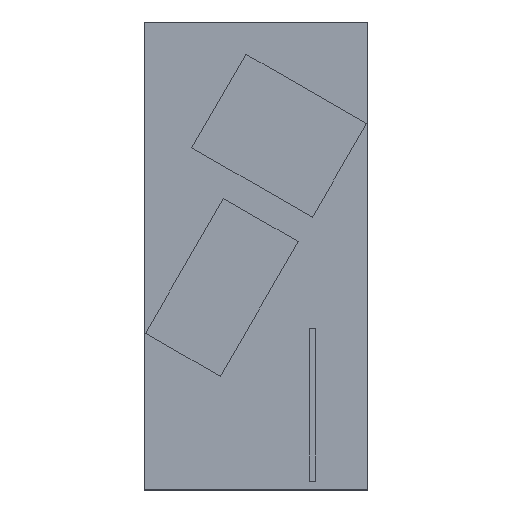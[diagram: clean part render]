
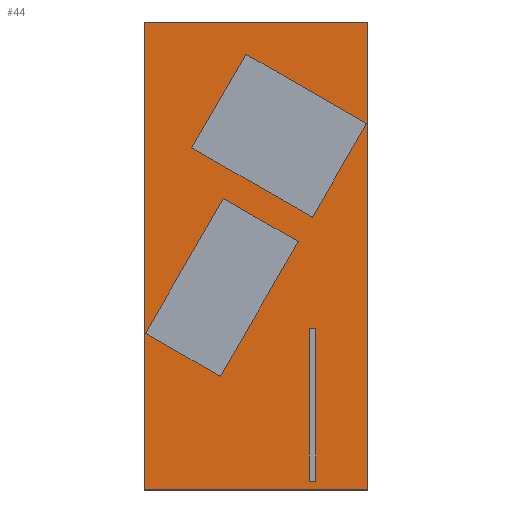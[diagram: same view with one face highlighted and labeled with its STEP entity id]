
A CAD part, top view. The second image highlights one B-rep face of the part: STEP entity #44.
In plain terms, the highlighted planar face has unit normal (0, 0, 1).
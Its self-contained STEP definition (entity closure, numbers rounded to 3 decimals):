
#11=FACE_BOUND('',#117,.T.);
#12=FACE_BOUND('',#118,.T.);
#13=FACE_BOUND('',#119,.T.);
#44=ADVANCED_FACE('',(#80,#11,#12,#13),#550,.T.);
#80=FACE_OUTER_BOUND('',#116,.T.);
#116=EDGE_LOOP('',(#212,#213,#214,#215));
#117=EDGE_LOOP('',(#216,#217,#218,#219));
#118=EDGE_LOOP('',(#220,#221,#222,#223));
#119=EDGE_LOOP('',(#224,#225,#226,#227));
#212=ORIENTED_EDGE('',*,*,#344,.T.);
#213=ORIENTED_EDGE('',*,*,#350,.T.);
#214=ORIENTED_EDGE('',*,*,#349,.T.);
#215=ORIENTED_EDGE('',*,*,#348,.T.);
#216=ORIENTED_EDGE('',*,*,#345,.T.);
#217=ORIENTED_EDGE('',*,*,#353,.T.);
#218=ORIENTED_EDGE('',*,*,#352,.T.);
#219=ORIENTED_EDGE('',*,*,#351,.T.);
#220=ORIENTED_EDGE('',*,*,#346,.T.);
#221=ORIENTED_EDGE('',*,*,#356,.T.);
#222=ORIENTED_EDGE('',*,*,#355,.T.);
#223=ORIENTED_EDGE('',*,*,#354,.T.);
#224=ORIENTED_EDGE('',*,*,#347,.T.);
#225=ORIENTED_EDGE('',*,*,#359,.T.);
#226=ORIENTED_EDGE('',*,*,#358,.T.);
#227=ORIENTED_EDGE('',*,*,#357,.T.);
#344=EDGE_CURVE('',#500,#506,#428,.T.);
#345=EDGE_CURVE('',#501,#509,#429,.T.);
#346=EDGE_CURVE('',#502,#512,#430,.T.);
#347=EDGE_CURVE('',#503,#515,#431,.T.);
#348=EDGE_CURVE('',#504,#500,#432,.T.);
#349=EDGE_CURVE('',#505,#504,#433,.T.);
#350=EDGE_CURVE('',#506,#505,#434,.T.);
#351=EDGE_CURVE('',#507,#501,#435,.T.);
#352=EDGE_CURVE('',#508,#507,#436,.T.);
#353=EDGE_CURVE('',#509,#508,#437,.T.);
#354=EDGE_CURVE('',#510,#502,#438,.T.);
#355=EDGE_CURVE('',#511,#510,#439,.T.);
#356=EDGE_CURVE('',#512,#511,#440,.T.);
#357=EDGE_CURVE('',#513,#503,#441,.T.);
#358=EDGE_CURVE('',#514,#513,#442,.T.);
#359=EDGE_CURVE('',#515,#514,#443,.T.);
#428=B_SPLINE_CURVE_WITH_KNOTS('',1,(#898,#899),.UNSPECIFIED.,.F.,.F.,(2,
2),(0.,1000.),.UNSPECIFIED.);
#429=B_SPLINE_CURVE_WITH_KNOTS('',1,(#900,#901),.UNSPECIFIED.,.F.,.F.,(2,
2),(-2240.,-1750.),.UNSPECIFIED.);
#430=B_SPLINE_CURVE_WITH_KNOTS('',1,(#902,#903),.UNSPECIFIED.,.F.,.F.,(2,
2),(-2210.,-1810.),.UNSPECIFIED.);
#431=B_SPLINE_CURVE_WITH_KNOTS('',1,(#904,#905),.UNSPECIFIED.,.F.,.F.,(2,
2),(-1440.,-1410.),.UNSPECIFIED.);
#432=B_SPLINE_CURVE_WITH_KNOTS('',1,(#906,#907),.UNSPECIFIED.,.F.,.F.,(2,
2),(4100.,6200.),.UNSPECIFIED.);
#433=B_SPLINE_CURVE_WITH_KNOTS('',1,(#908,#909),.UNSPECIFIED.,.F.,.F.,(2,
2),(3100.,4100.),.UNSPECIFIED.);
#434=B_SPLINE_CURVE_WITH_KNOTS('',1,(#910,#911),.UNSPECIFIED.,.F.,.F.,(2,
2),(1000.,3100.),.UNSPECIFIED.);
#435=B_SPLINE_CURVE_WITH_KNOTS('',1,(#912,#913),.UNSPECIFIED.,.F.,.F.,(2,
2),(-630.,0.),.UNSPECIFIED.);
#436=B_SPLINE_CURVE_WITH_KNOTS('',1,(#914,#915),.UNSPECIFIED.,.F.,.F.,(2,
2),(-1120.,-630.),.UNSPECIFIED.);
#437=B_SPLINE_CURVE_WITH_KNOTS('',1,(#916,#917),.UNSPECIFIED.,.F.,.F.,(2,
2),(-1750.,-1120.),.UNSPECIFIED.);
#438=B_SPLINE_CURVE_WITH_KNOTS('',1,(#918,#919),.UNSPECIFIED.,.F.,.F.,(2,
2),(-705.,0.),.UNSPECIFIED.);
#439=B_SPLINE_CURVE_WITH_KNOTS('',1,(#920,#921),.UNSPECIFIED.,.F.,.F.,(2,
2),(-1105.,-705.),.UNSPECIFIED.);
#440=B_SPLINE_CURVE_WITH_KNOTS('',1,(#922,#923),.UNSPECIFIED.,.F.,.F.,(2,
2),(-1810.,-1105.),.UNSPECIFIED.);
#441=B_SPLINE_CURVE_WITH_KNOTS('',1,(#924,#925),.UNSPECIFIED.,.F.,.F.,(2,
2),(-690.,0.),.UNSPECIFIED.);
#442=B_SPLINE_CURVE_WITH_KNOTS('',1,(#926,#927),.UNSPECIFIED.,.F.,.F.,(2,
2),(-720.,-690.),.UNSPECIFIED.);
#443=B_SPLINE_CURVE_WITH_KNOTS('',1,(#928,#929),.UNSPECIFIED.,.F.,.F.,(2,
2),(-1410.,-720.),.UNSPECIFIED.);
#500=VERTEX_POINT('',#866);
#501=VERTEX_POINT('',#867);
#502=VERTEX_POINT('',#868);
#503=VERTEX_POINT('',#869);
#504=VERTEX_POINT('',#870);
#505=VERTEX_POINT('',#871);
#506=VERTEX_POINT('',#872);
#507=VERTEX_POINT('',#873);
#508=VERTEX_POINT('',#874);
#509=VERTEX_POINT('',#875);
#510=VERTEX_POINT('',#876);
#511=VERTEX_POINT('',#877);
#512=VERTEX_POINT('',#878);
#513=VERTEX_POINT('',#879);
#514=VERTEX_POINT('',#880);
#515=VERTEX_POINT('',#881);
#550=PLANE('',#674);
#674=AXIS2_PLACEMENT_3D('',#848,#713,$);
#713=DIRECTION('',(0.,0.,1.));
#848=CARTESIAN_POINT('',(0.,0.,0.));
#866=CARTESIAN_POINT('',(0.,0.,0.));
#867=CARTESIAN_POINT('',(354.558,2559.568,0.));
#868=CARTESIAN_POINT('',(568.22,849.904,0.));
#869=CARTESIAN_POINT('',(1231.792,1205.5,0.));
#870=CARTESIAN_POINT('',(0.,3500.,0.));
#871=CARTESIAN_POINT('',(1670.,3500.,0.));
#872=CARTESIAN_POINT('',(1670.,0.,0.));
#873=CARTESIAN_POINT('',(1256.591,2039.818,0.));
#874=CARTESIAN_POINT('',(1661.65,2740.,0.));
#875=CARTESIAN_POINT('',(759.616,3259.75,0.));
#876=CARTESIAN_POINT('',(1151.008,1857.308,0.));
#877=CARTESIAN_POINT('',(591.138,2179.904,0.));
#878=CARTESIAN_POINT('',(8.35,1172.5,0.));
#879=CARTESIAN_POINT('',(1231.792,67.,0.));
#880=CARTESIAN_POINT('',(1281.391,67.,0.));
#881=CARTESIAN_POINT('',(1281.391,1205.5,0.));
#898=CARTESIAN_POINT('',(0.,0.,0.));
#899=CARTESIAN_POINT('',(1670.,0.,0.));
#900=CARTESIAN_POINT('',(354.558,2559.568,0.));
#901=CARTESIAN_POINT('',(759.616,3259.75,0.));
#902=CARTESIAN_POINT('',(568.22,849.904,0.));
#903=CARTESIAN_POINT('',(8.35,1172.5,0.));
#904=CARTESIAN_POINT('',(1231.792,1205.5,0.));
#905=CARTESIAN_POINT('',(1281.391,1205.5,0.));
#906=CARTESIAN_POINT('',(0.,3500.,0.));
#907=CARTESIAN_POINT('',(0.,0.,0.));
#908=CARTESIAN_POINT('',(1670.,3500.,0.));
#909=CARTESIAN_POINT('',(0.,3500.,0.));
#910=CARTESIAN_POINT('',(1670.,0.,0.));
#911=CARTESIAN_POINT('',(1670.,3500.,0.));
#912=CARTESIAN_POINT('',(1256.591,2039.818,0.));
#913=CARTESIAN_POINT('',(354.558,2559.568,0.));
#914=CARTESIAN_POINT('',(1661.65,2740.,0.));
#915=CARTESIAN_POINT('',(1256.591,2039.818,0.));
#916=CARTESIAN_POINT('',(759.616,3259.75,0.));
#917=CARTESIAN_POINT('',(1661.65,2740.,0.));
#918=CARTESIAN_POINT('',(1151.008,1857.308,0.));
#919=CARTESIAN_POINT('',(568.22,849.904,0.));
#920=CARTESIAN_POINT('',(591.138,2179.904,0.));
#921=CARTESIAN_POINT('',(1151.008,1857.308,0.));
#922=CARTESIAN_POINT('',(8.35,1172.5,0.));
#923=CARTESIAN_POINT('',(591.138,2179.904,0.));
#924=CARTESIAN_POINT('',(1231.792,67.,0.));
#925=CARTESIAN_POINT('',(1231.792,1205.5,0.));
#926=CARTESIAN_POINT('',(1281.391,67.,0.));
#927=CARTESIAN_POINT('',(1231.792,67.,0.));
#928=CARTESIAN_POINT('',(1281.391,1205.5,0.));
#929=CARTESIAN_POINT('',(1281.391,67.,0.));
